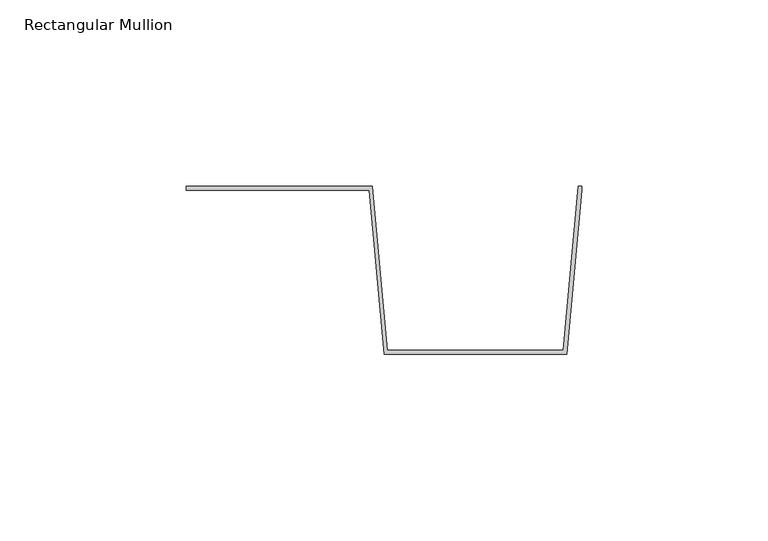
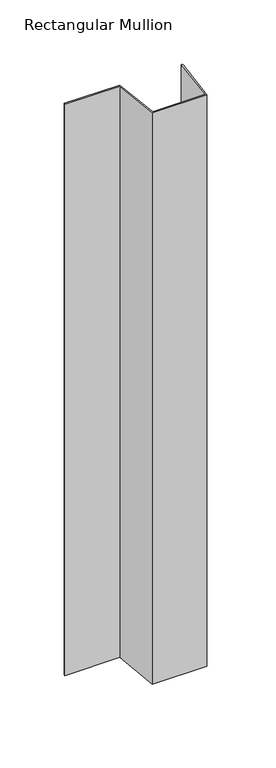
"""IFC4 building model written with IfcOpenShell, lengths in millimetres: member geometry, Rectangular Mullion : CD_NINELINE_Batten Intermediate."""

from ifc_helpers import new_model, si_unit, frame, origin, place, context, project, spatial, polyline, outline, extrude, source, transform, mapped, element, save


def rectangular_mullion_24ba1bdb(model_context):
    return source(origin(), model_context, "Body", "SweptSolid", [
        extrude(outline(polyline([(0.0, 0.0), (49.9132146, 0.0), (53.9132146, -44.0), (101.0867854, -44.0), (105.0867854, 0.0), (106.0, 0.0), (106.0, -1.0), (102.0, -45.0), (53.0, -45.0), (49.0, -1.0), (0.0, -1.0), (0.0, 0.0)])), frame((0.0, 0.0, -542.0), z_axis=(0.0, 0.0, 1.0), x_axis=(1.0, 0.0, 0.0)), (0.0, 0.0, 1.0), 542.0),
    ])


if __name__ == "__main__":
    model = new_model("IFC4")
    model_context = context("Model", 3, world=origin())
    ifc_project = project(units=[si_unit("LENGTHUNIT", "METRE", prefix="MILLI")], contexts=[model_context])
    site = spatial("IfcSite", under=ifc_project)
    building = spatial("IfcBuilding", under=site)
    placement = place(None, origin())
    rectangular_mullion_shape = rectangular_mullion_24ba1bdb(model_context)
    element("IfcMember", 1, ObjectType="Rectangular Mullion : CD_NINELINE_Batten Intermediate", at=placement, inside=building, context=model_context, shape_type="MappedRepresentation", body=[
        mapped(rectangular_mullion_shape, transform((0.0, 0.0, 0.0), x_axis=(1.0, 0.0, 0.0), y_axis=(0.0, 1.0, 0.0), z_axis=(0.0, 0.0, 1.0))),
    ])
    save(model, "model.ifc")
